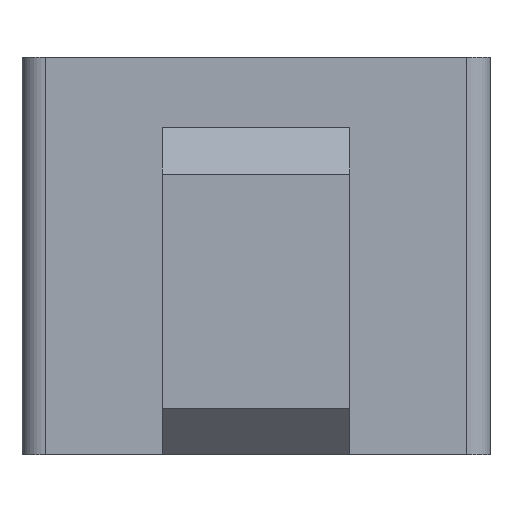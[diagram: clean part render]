
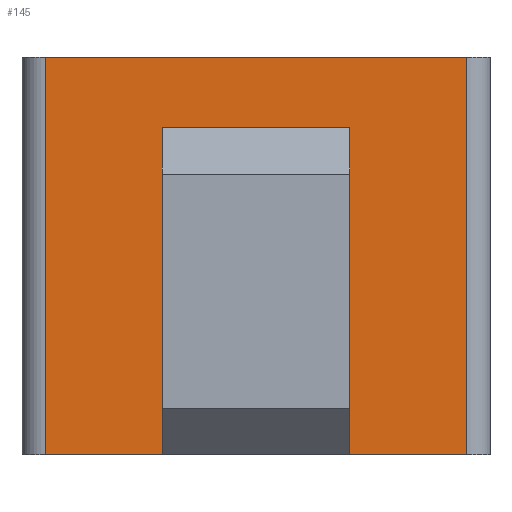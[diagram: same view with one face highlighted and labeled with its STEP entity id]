
A CAD part, front view. The second image highlights one B-rep face of the part: STEP entity #145.
In plain terms, the highlighted planar face has unit normal (0, -1, 0).
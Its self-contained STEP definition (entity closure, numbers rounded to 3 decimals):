
#8 = ORIENTED_EDGE ( 'NONE', *, *, #725, .T. ) ;
#9 = VERTEX_POINT ( 'NONE', #877 ) ;
#79 = DIRECTION ( 'NONE',  ( 0., 0., -1. ) ) ;
#84 = VERTEX_POINT ( 'NONE', #1098 ) ;
#86 = CARTESIAN_POINT ( 'NONE',  ( -10., -10., 1.8 ) ) ;
#112 = FACE_OUTER_BOUND ( 'NONE', #161, .T. ) ;
#116 = CARTESIAN_POINT ( 'NONE',  ( 4., -10., -8.5 ) ) ;
#139 = ORIENTED_EDGE ( 'NONE', *, *, #649, .F. ) ;
#145 = ADVANCED_FACE ( 'NONE', ( #112, #326 ), #291, .F. ) ;
#152 = DIRECTION ( 'NONE',  ( -1., 0., 0. ) ) ;
#156 = LINE ( 'NONE', #86, #757 ) ;
#161 = EDGE_LOOP ( 'NONE', ( #1548, #1125, #1421, #404 ) ) ;
#172 = CARTESIAN_POINT ( 'NONE',  ( 2., -10., -3.5 ) ) ;
#173 = LINE ( 'NONE', #1087, #1179 ) ;
#184 = CARTESIAN_POINT ( 'NONE',  ( -10., -10., -5.5 ) ) ;
#191 = VECTOR ( 'NONE', #579, 1000. ) ;
#226 = CARTESIAN_POINT ( 'NONE',  ( -4., -10., -8.5 ) ) ;
#228 = LINE ( 'NONE', #226, #985 ) ;
#291 = PLANE ( 'NONE',  #664 ) ;
#293 = EDGE_CURVE ( 'NONE', #1270, #743, #156, .T. ) ;
#300 = CARTESIAN_POINT ( 'NONE',  ( -4., -10., -5.5 ) ) ;
#326 = FACE_BOUND ( 'NONE', #1370, .T. ) ;
#339 = VECTOR ( 'NONE', #1502, 1000. ) ;
#362 = DIRECTION ( 'NONE',  ( 0., 0., -1. ) ) ;
#363 = EDGE_CURVE ( 'NONE', #903, #387, #1066, .T. ) ;
#387 = VERTEX_POINT ( 'NONE', #571 ) ;
#404 = ORIENTED_EDGE ( 'NONE', *, *, #546, .T. ) ;
#471 = ORIENTED_EDGE ( 'NONE', *, *, #1503, .T. ) ;
#519 = CARTESIAN_POINT ( 'NONE',  ( -9., -10., 8.5 ) ) ;
#546 = EDGE_CURVE ( 'NONE', #84, #1391, #173, .T. ) ;
#549 = DIRECTION ( 'NONE',  ( 1., 0., 0. ) ) ;
#568 = CIRCLE ( 'NONE', #1317, 2. ) ;
#571 = CARTESIAN_POINT ( 'NONE',  ( -9., -10., -8.5 ) ) ;
#579 = DIRECTION ( 'NONE',  ( 1., 0., 0. ) ) ;
#596 = CARTESIAN_POINT ( 'NONE',  ( 10., -10., -8.5 ) ) ;
#649 = EDGE_CURVE ( 'NONE', #718, #1532, #228, .T. ) ;
#664 = AXIS2_PLACEMENT_3D ( 'NONE', #773, #897, #1141 ) ;
#675 = AXIS2_PLACEMENT_3D ( 'NONE', #172, #1505, #904 ) ;
#692 = LINE ( 'NONE', #184, #339 ) ;
#709 = DIRECTION ( 'NONE',  ( 0., 0., 1. ) ) ;
#718 = VERTEX_POINT ( 'NONE', #982 ) ;
#719 = VECTOR ( 'NONE', #969, 1000. ) ;
#725 = EDGE_CURVE ( 'NONE', #718, #1270, #568, .T. ) ;
#735 = CARTESIAN_POINT ( 'NONE',  ( 4., -10., 1.8 ) ) ;
#743 = VERTEX_POINT ( 'NONE', #735 ) ;
#757 = VECTOR ( 'NONE', #549, 1000. ) ;
#762 = CARTESIAN_POINT ( 'NONE',  ( 9., -10., 8.5 ) ) ;
#773 = CARTESIAN_POINT ( 'NONE',  ( 10., -10., 8.5 ) ) ;
#877 = CARTESIAN_POINT ( 'NONE',  ( 2., -10., -5.5 ) ) ;
#884 = EDGE_CURVE ( 'NONE', #1532, #9, #692, .T. ) ;
#894 = CARTESIAN_POINT ( 'NONE',  ( 4., -10., -3.5 ) ) ;
#897 = DIRECTION ( 'NONE',  ( 0., 1., 0. ) ) ;
#903 = VERTEX_POINT ( 'NONE', #519 ) ;
#904 = DIRECTION ( 'NONE',  ( -1., 0., 0. ) ) ;
#922 = VERTEX_POINT ( 'NONE', #894 ) ;
#969 = DIRECTION ( 'NONE',  ( 0., 0., 1. ) ) ;
#982 = CARTESIAN_POINT ( 'NONE',  ( -4., -10., -0.2 ) ) ;
#985 = VECTOR ( 'NONE', #362, 1000. ) ;
#1035 = VECTOR ( 'NONE', #79, 1000. ) ;
#1044 = DIRECTION ( 'NONE',  ( 1., 0., 0. ) ) ;
#1058 = CIRCLE ( 'NONE', #675, 2. ) ;
#1066 = LINE ( 'NONE', #1157, #1035 ) ;
#1083 = CARTESIAN_POINT ( 'NONE',  ( -2., -10., 1.8 ) ) ;
#1085 = EDGE_CURVE ( 'NONE', #387, #84, #1486, .T. ) ;
#1087 = CARTESIAN_POINT ( 'NONE',  ( 9., -10., 8.5 ) ) ;
#1098 = CARTESIAN_POINT ( 'NONE',  ( 9., -10., -8.5 ) ) ;
#1125 = ORIENTED_EDGE ( 'NONE', *, *, #363, .T. ) ;
#1131 = LINE ( 'NONE', #116, #719 ) ;
#1141 = DIRECTION ( 'NONE',  ( -1., 0., 0. ) ) ;
#1157 = CARTESIAN_POINT ( 'NONE',  ( -9., -10., 8.5 ) ) ;
#1179 = VECTOR ( 'NONE', #709, 1000. ) ;
#1203 = ORIENTED_EDGE ( 'NONE', *, *, #884, .F. ) ;
#1223 = VECTOR ( 'NONE', #1044, 1000. ) ;
#1230 = CARTESIAN_POINT ( 'NONE',  ( -2., -10., -0.2 ) ) ;
#1263 = LINE ( 'NONE', #1395, #1223 ) ;
#1270 = VERTEX_POINT ( 'NONE', #1083 ) ;
#1297 = ORIENTED_EDGE ( 'NONE', *, *, #293, .T. ) ;
#1299 = EDGE_CURVE ( 'NONE', #922, #743, #1131, .T. ) ;
#1317 = AXIS2_PLACEMENT_3D ( 'NONE', #1230, #1364, #152 ) ;
#1356 = ORIENTED_EDGE ( 'NONE', *, *, #1299, .F. ) ;
#1364 = DIRECTION ( 'NONE',  ( 0., 1., 0. ) ) ;
#1370 = EDGE_LOOP ( 'NONE', ( #139, #8, #1297, #1356, #471, #1203 ) ) ;
#1391 = VERTEX_POINT ( 'NONE', #762 ) ;
#1395 = CARTESIAN_POINT ( 'NONE',  ( 10., -10., 8.5 ) ) ;
#1421 = ORIENTED_EDGE ( 'NONE', *, *, #1085, .T. ) ;
#1486 = LINE ( 'NONE', #596, #191 ) ;
#1502 = DIRECTION ( 'NONE',  ( 1., 0., 0. ) ) ;
#1503 = EDGE_CURVE ( 'NONE', #922, #9, #1058, .T. ) ;
#1505 = DIRECTION ( 'NONE',  ( 0., 1., 0. ) ) ;
#1532 = VERTEX_POINT ( 'NONE', #300 ) ;
#1548 = ORIENTED_EDGE ( 'NONE', *, *, #1551, .F. ) ;
#1551 = EDGE_CURVE ( 'NONE', #903, #1391, #1263, .T. ) ;
